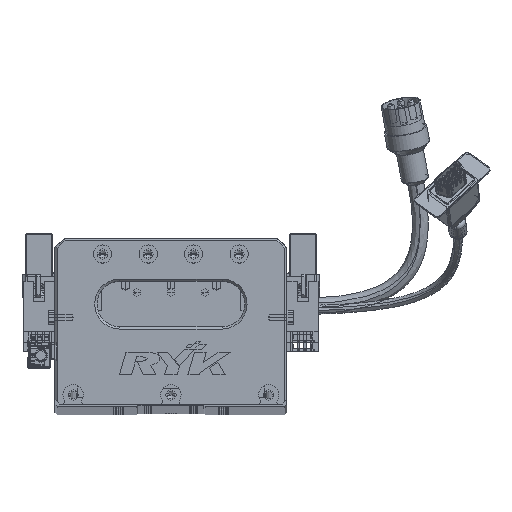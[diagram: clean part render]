
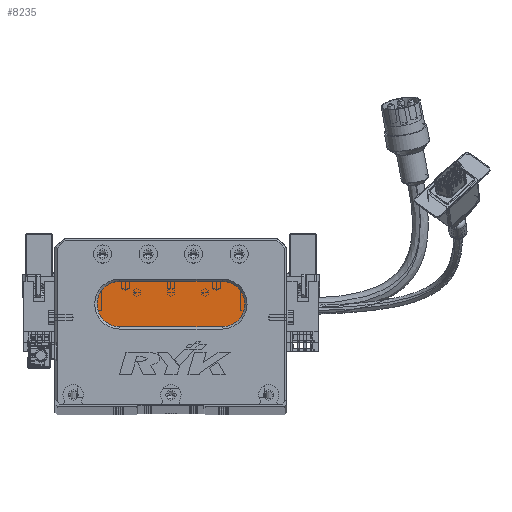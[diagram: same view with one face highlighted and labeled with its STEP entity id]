
A CAD part, top view. The second image highlights one B-rep face of the part: STEP entity #8235.
In plain terms, the highlighted planar face has unit normal (0, 0, 1) as drawn and (0, 0, -1) by its records, which use the part's own axes.
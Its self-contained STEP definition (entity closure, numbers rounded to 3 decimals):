
#732 = DIRECTION ( 'NONE',  ( -1., 0., 0. ) ) ;
#1518 = ORIENTED_EDGE ( 'NONE', *, *, #40594, .T. ) ;
#3281 = PLANE ( 'NONE',  #71505 ) ;
#4860 = VERTEX_POINT ( 'NONE', #70238 ) ;
#5089 = EDGE_CURVE ( 'NONE', #4860, #79705, #22705, .T. ) ;
#5383 = DIRECTION ( 'NONE',  ( 0., 0., -1. ) ) ;
#6504 = DIRECTION ( 'NONE',  ( -1., 0., 0. ) ) ;
#7350 = CARTESIAN_POINT ( 'NONE',  ( 28.5, 54., 13. ) ) ;
#8235 = ADVANCED_FACE ( 'NONE', ( #52942 ), #3281, .T. ) ;
#8704 = ORIENTED_EDGE ( 'NONE', *, *, #64657, .T. ) ;
#12370 = LINE ( 'NONE', #42949, #51819 ) ;
#13698 = EDGE_CURVE ( 'NONE', #27521, #60813, #66417, .T. ) ;
#15523 = VERTEX_POINT ( 'NONE', #7350 ) ;
#22705 = CIRCLE ( 'NONE', #67262, 10. ) ;
#25581 = DIRECTION ( 'NONE',  ( 0., 0., -1. ) ) ;
#27062 = LINE ( 'NONE', #63971, #30934 ) ;
#27521 = VERTEX_POINT ( 'NONE', #31444 ) ;
#28648 = AXIS2_PLACEMENT_3D ( 'NONE', #31928, #74349, #732 ) ;
#30934 = VECTOR ( 'NONE', #75771, 1000. ) ;
#31444 = CARTESIAN_POINT ( 'NONE',  ( 73.5, 54., 13. ) ) ;
#31928 = CARTESIAN_POINT ( 'NONE',  ( 28.5, 44., 13. ) ) ;
#33684 = DIRECTION ( 'NONE',  ( -1., 0., 0. ) ) ;
#34722 = CIRCLE ( 'NONE', #28648, 10. ) ;
#40254 = ORIENTED_EDGE ( 'NONE', *, *, #5089, .T. ) ;
#40594 = EDGE_CURVE ( 'NONE', #60813, #4860, #12370, .T. ) ;
#42949 = CARTESIAN_POINT ( 'NONE',  ( 73.5, 34., 13. ) ) ;
#46306 = DIRECTION ( 'NONE',  ( 0., 0., -1. ) ) ;
#47961 = CARTESIAN_POINT ( 'NONE',  ( 73.5, 34., 13. ) ) ;
#48857 = DIRECTION ( 'NONE',  ( -1., 0., 0. ) ) ;
#48883 = ORIENTED_EDGE ( 'NONE', *, *, #65060, .T. ) ;
#51272 = AXIS2_PLACEMENT_3D ( 'NONE', #67707, #5383, #73076 ) ;
#51819 = VECTOR ( 'NONE', #48857, 1000. ) ;
#52942 = FACE_OUTER_BOUND ( 'NONE', #55305, .T. ) ;
#55305 = EDGE_LOOP ( 'NONE', ( #66908, #1518, #40254, #48883, #8704 ) ) ;
#55419 = CARTESIAN_POINT ( 'NONE',  ( 28.5, 44., 13. ) ) ;
#60813 = VERTEX_POINT ( 'NONE', #47961 ) ;
#63971 = CARTESIAN_POINT ( 'NONE',  ( 73.5, 54., 13. ) ) ;
#64657 = EDGE_CURVE ( 'NONE', #15523, #27521, #27062, .T. ) ;
#65060 = EDGE_CURVE ( 'NONE', #79705, #15523, #34722, .T. ) ;
#66417 = CIRCLE ( 'NONE', #51272, 10. ) ;
#66908 = ORIENTED_EDGE ( 'NONE', *, *, #13698, .T. ) ;
#67262 = AXIS2_PLACEMENT_3D ( 'NONE', #55419, #25581, #6504 ) ;
#67707 = CARTESIAN_POINT ( 'NONE',  ( 73.5, 44., 13. ) ) ;
#70238 = CARTESIAN_POINT ( 'NONE',  ( 28.5, 34., 13. ) ) ;
#70458 = CARTESIAN_POINT ( 'NONE',  ( 73.5, 44., 13. ) ) ;
#71505 = AXIS2_PLACEMENT_3D ( 'NONE', #70458, #46306, #33684 ) ;
#73076 = DIRECTION ( 'NONE',  ( -1., 0., 0. ) ) ;
#74349 = DIRECTION ( 'NONE',  ( 0., 0., -1. ) ) ;
#75062 = CARTESIAN_POINT ( 'NONE',  ( 18.5, 44., 13. ) ) ;
#75771 = DIRECTION ( 'NONE',  ( 1., 0., 0. ) ) ;
#79705 = VERTEX_POINT ( 'NONE', #75062 ) ;
